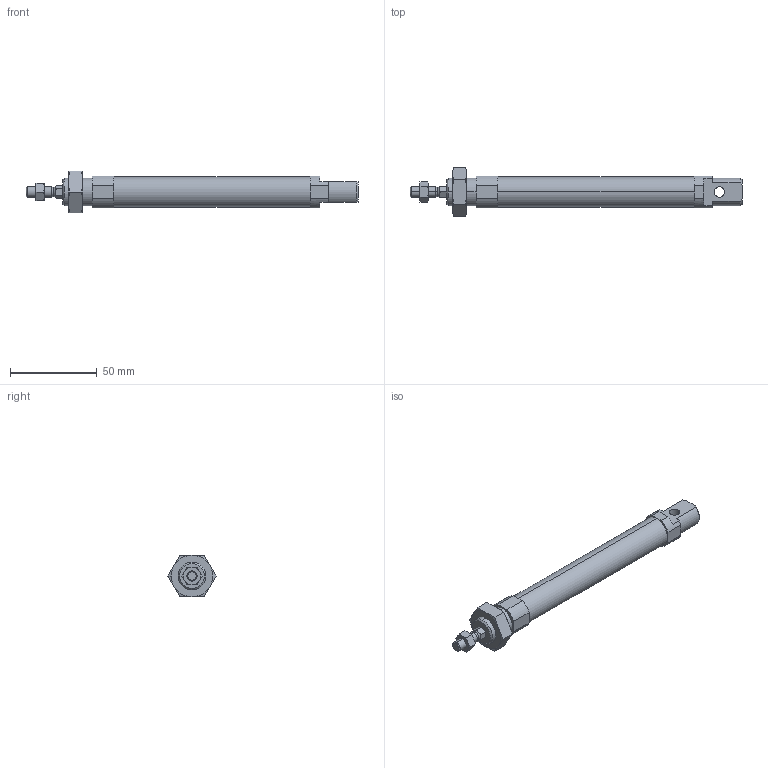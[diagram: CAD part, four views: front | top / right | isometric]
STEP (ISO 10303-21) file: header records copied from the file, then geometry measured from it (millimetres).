
FILE_DESCRIPTION (( 'STEP AP203' ), '1' );
FILE_NAME ('CSMK16-80.STEP', '2020-04-02T10:45:15', ( '' ), ( '' ), 'SwSTEP 2.0', 'SolidWorks 2019', '' );
FILE_SCHEMA (( 'CONFIG_CONTROL_DESIGN' ));
Length unit declared in the file: millimetre
Products named in the file (1): CSMK16-80
Bounding box: 191 x 27.71 x 24 mm (x, y, z)
Volume: 29164 mm3; surface area: 20832.5 mm2
Topology: 4 solids, 4 shells, 135 faces, 310 edges, 189 vertices
Faces by surface type: plane 53, cone 50, cylinder 32
Entity records: 4287 total; most frequent: CARTESIAN_POINT 1185, DIRECTION 636, ORIENTED_EDGE 616, EDGE_CURVE 308, AXIS2_PLACEMENT_3D 250, VERTEX_POINT 189, EDGE_LOOP 151, LINE 136
